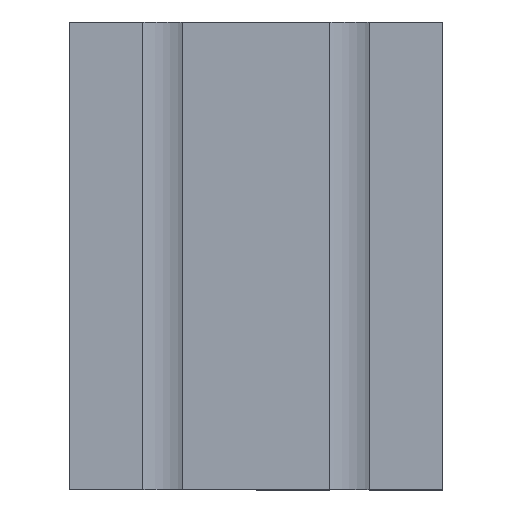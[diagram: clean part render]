
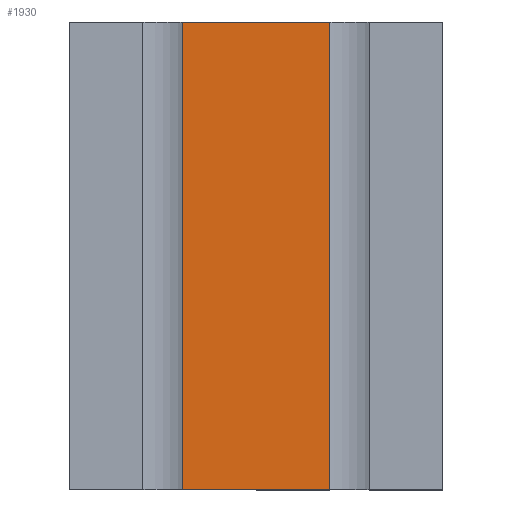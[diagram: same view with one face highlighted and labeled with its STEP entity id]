
A CAD part, top view. The second image highlights one B-rep face of the part: STEP entity #1930.
In plain terms, the highlighted planar face has unit normal (0, 0, 1).
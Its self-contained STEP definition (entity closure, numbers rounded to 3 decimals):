
#73=LINE('',#2805,#302);
#155=LINE('',#3026,#384);
#195=LINE('',#3130,#424);
#196=LINE('',#3131,#425);
#302=VECTOR('',#2243,1000.);
#384=VECTOR('',#2383,1000.);
#424=VECTOR('',#2461,1000.);
#425=VECTOR('',#2462,1000.);
#715=ORIENTED_EDGE('',*,*,#1109,.F.);
#716=ORIENTED_EDGE('',*,*,#1273,.F.);
#717=ORIENTED_EDGE('',*,*,#1219,.T.);
#718=ORIENTED_EDGE('',*,*,#1274,.T.);
#1109=EDGE_CURVE('',#1392,#1393,#73,.T.);
#1219=EDGE_CURVE('',#1503,#1502,#155,.T.);
#1273=EDGE_CURVE('',#1503,#1392,#195,.T.);
#1274=EDGE_CURVE('',#1502,#1393,#196,.T.);
#1392=VERTEX_POINT('',#2804);
#1393=VERTEX_POINT('',#2806);
#1502=VERTEX_POINT('',#3025);
#1503=VERTEX_POINT('',#3027);
#1626=EDGE_LOOP('',(#715,#716,#717,#718));
#1751=FACE_BOUND('',#1626,.T.);
#1858=PLANE('',#2096);
#1930=ADVANCED_FACE('',(#1751),#1858,.T.);
#2096=AXIS2_PLACEMENT_3D('',#3129,#2459,#2460);
#2243=DIRECTION('',(1.,0.,0.));
#2383=DIRECTION('',(1.,0.,0.));
#2459=DIRECTION('',(0.,0.,1.));
#2460=DIRECTION('',(1.,0.,0.));
#2461=DIRECTION('',(0.,1.,0.));
#2462=DIRECTION('',(0.,1.,0.));
#2804=CARTESIAN_POINT('',(-15.8,50.,40.));
#2805=CARTESIAN_POINT('',(-40.,50.,40.));
#2806=CARTESIAN_POINT('',(15.8,50.,40.));
#3025=CARTESIAN_POINT('',(15.8,-50.,40.));
#3026=CARTESIAN_POINT('',(-40.,-50.,40.));
#3027=CARTESIAN_POINT('',(-15.8,-50.,40.));
#3129=CARTESIAN_POINT('',(-40.,-500.,40.));
#3130=CARTESIAN_POINT('',(-15.8,-1006.38,40.));
#3131=CARTESIAN_POINT('',(15.8,-1006.38,40.));
